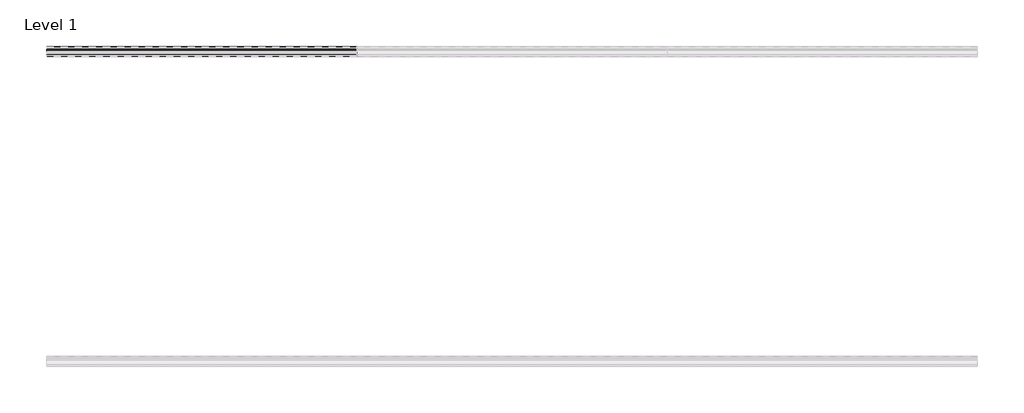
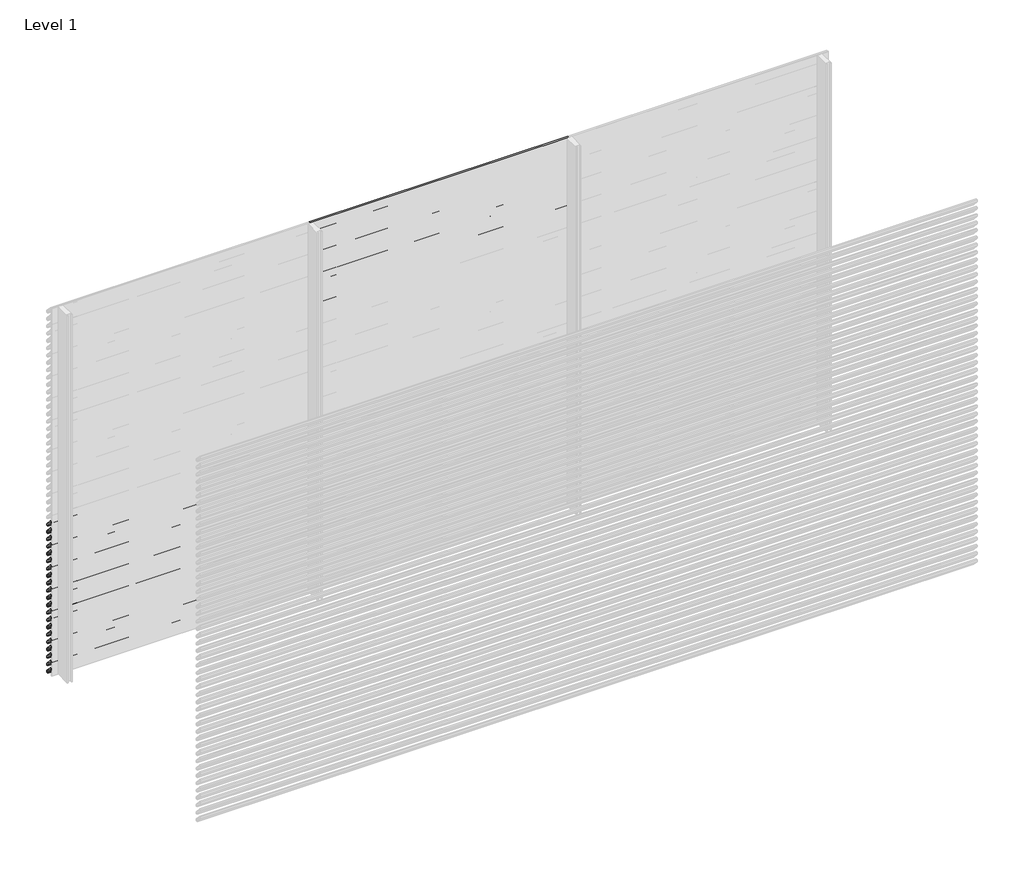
# One storey, part 39 of 153: 33 proxies.
"""IFC4 building model written with IfcOpenShell, lengths in millimetres."""

from ifc_helpers import new_model, si_unit, point, frame, frame_2d, origin, place, context, project, spatial, polyline, circle_curve, trimmed, segment, composite_curve, outline, extrude, element, save

model = new_model("IFC4")

# Units and contexts
model_context = context("Model", 3, world=origin())
ifc_project = project(units=[si_unit("LENGTHUNIT", "METRE", prefix="MILLI")], contexts=[model_context])

# Site, building, storey
site = spatial("IfcSite", under=ifc_project)
building = spatial("IfcBuilding", under=site)
storey = spatial("IfcBuildingStorey", under=building, Name="Level 1", Elevation=0.0)

# Proxies
placement = place(None, origin())
element("IfcBuildingElementProxy", 1, Name="Wall Sweeps", at=placement, inside=storey, context=model_context, shape_type="SweptSolid", body=[
    extrude(outline(composite_curve([segment(polyline([(13985.0540136, 1260.0), (13999.874191, 1258.7034025), (14049.0540136, 1205.0102749), (14049.0540136, 1193.6108187)]), True, "CONTINUOUS"), segment(trimmed(circle_curve(frame_2d((14045.7883652, 1193.897153)), 3.2781774), [point((14049.0540136, 1193.6108187))], [point((14046.4639442, 1190.6893438))], False, "CARTESIAN"), True, "CONTINUOUS"), segment(polyline([(14046.4639442, 1190.6893438), (14034.1895723, 1191.6282758), (13985.0540136, 1245.2730773), (13985.0540136, 1260.0)]), True, "CONTINUOUS")], self_intersect=False), holes=[composite_curve([segment(polyline([(13999.1621773, 1257.2599659), (13986.5540136, 1258.3630372), (13986.5540136, 1245.856213), (14034.8952036, 1193.0786805), (14046.3312542, 1192.2038762)]), True, "CONTINUOUS"), segment(trimmed(circle_curve(frame_2d((14045.7883652, 1193.897153)), 1.7781774), [point((14046.3312542, 1192.2038762))], [point((14047.5540136, 1193.6864389))], True, "CARTESIAN"), True, "CONTINUOUS"), segment(polyline([(14047.5540136, 1193.6864389), (14047.5540136, 1204.4271392), (13999.1621773, 1257.2599659)]), True, "CONTINUOUS")], self_intersect=False)]), frame((44966.6208097, 0.0, 0.0), z_axis=(1.0, 0.0, 0.0), x_axis=(0.0, 1.0, 0.0)), (0.0, 0.0, 1.0), 2000.0000001),
])
element("IfcBuildingElementProxy", 2, Name="Wall Sweeps", at=placement, inside=storey, context=model_context, shape_type="SweptSolid", body=[
    extrude(outline(composite_curve([segment(polyline([(13985.0540136, 1200.0), (13999.874191, 1198.7034025), (14049.0540136, 1145.0102749), (14049.0540136, 1133.6108187)]), True, "CONTINUOUS"), segment(trimmed(circle_curve(frame_2d((14045.7883652, 1133.897153)), 3.2781774), [point((14049.0540136, 1133.6108187))], [point((14046.4639442, 1130.6893438))], False, "CARTESIAN"), True, "CONTINUOUS"), segment(polyline([(14046.4639442, 1130.6893438), (14034.1895723, 1131.6282758), (13985.0540136, 1185.2730773), (13985.0540136, 1200.0)]), True, "CONTINUOUS")], self_intersect=False), holes=[composite_curve([segment(polyline([(13999.1621773, 1197.2599659), (13986.5540136, 1198.3630372), (13986.5540136, 1185.856213), (14034.8952036, 1133.0786805), (14046.3312542, 1132.2038762)]), True, "CONTINUOUS"), segment(trimmed(circle_curve(frame_2d((14045.7883652, 1133.897153)), 1.7781774), [point((14046.3312542, 1132.2038762))], [point((14047.5540136, 1133.6864389))], True, "CARTESIAN"), True, "CONTINUOUS"), segment(polyline([(14047.5540136, 1133.6864389), (14047.5540136, 1144.4271392), (13999.1621773, 1197.2599659)]), True, "CONTINUOUS")], self_intersect=False)]), frame((44966.6208097, 0.0, 0.0), z_axis=(1.0, 0.0, 0.0), x_axis=(0.0, 1.0, 0.0)), (0.0, 0.0, 1.0), 2000.0000001),
])
element("IfcBuildingElementProxy", 3, Name="Wall Sweeps", at=placement, inside=storey, context=model_context, shape_type="SweptSolid", body=[
    extrude(outline(composite_curve([segment(polyline([(13985.0540136, 1140.0), (13999.874191, 1138.7034025), (14049.0540136, 1085.0102749), (14049.0540136, 1073.6108187)]), True, "CONTINUOUS"), segment(trimmed(circle_curve(frame_2d((14045.7883652, 1073.897153)), 3.2781774), [point((14049.0540136, 1073.6108187))], [point((14046.4639442, 1070.6893438))], False, "CARTESIAN"), True, "CONTINUOUS"), segment(polyline([(14046.4639442, 1070.6893438), (14034.1895723, 1071.6282758), (13985.0540136, 1125.2730773), (13985.0540136, 1140.0)]), True, "CONTINUOUS")], self_intersect=False), holes=[composite_curve([segment(polyline([(13999.1621773, 1137.2599659), (13986.5540136, 1138.3630372), (13986.5540136, 1125.856213), (14034.8952036, 1073.0786805), (14046.3312542, 1072.2038762)]), True, "CONTINUOUS"), segment(trimmed(circle_curve(frame_2d((14045.7883652, 1073.897153)), 1.7781774), [point((14046.3312542, 1072.2038762))], [point((14047.5540136, 1073.6864389))], True, "CARTESIAN"), True, "CONTINUOUS"), segment(polyline([(14047.5540136, 1073.6864389), (14047.5540136, 1084.4271392), (13999.1621773, 1137.2599659)]), True, "CONTINUOUS")], self_intersect=False)]), frame((44966.6208097, 0.0, 0.0), z_axis=(1.0, 0.0, 0.0), x_axis=(0.0, 1.0, 0.0)), (0.0, 0.0, 1.0), 2000.0000001),
])
element("IfcBuildingElementProxy", 4, Name="Wall Sweeps", at=placement, inside=storey, context=model_context, shape_type="SweptSolid", body=[
    extrude(outline(composite_curve([segment(polyline([(13985.0540136, 1080.0), (13999.874191, 1078.7034025), (14049.0540136, 1025.0102749), (14049.0540136, 1013.6108187)]), True, "CONTINUOUS"), segment(trimmed(circle_curve(frame_2d((14045.7883652, 1013.897153)), 3.2781774), [point((14049.0540136, 1013.6108187))], [point((14046.4639442, 1010.6893438))], False, "CARTESIAN"), True, "CONTINUOUS"), segment(polyline([(14046.4639442, 1010.6893438), (14034.1895723, 1011.6282758), (13985.0540136, 1065.2730773), (13985.0540136, 1080.0)]), True, "CONTINUOUS")], self_intersect=False), holes=[composite_curve([segment(polyline([(13999.1621773, 1077.2599659), (13986.5540136, 1078.3630372), (13986.5540136, 1065.856213), (14034.8952036, 1013.0786805), (14046.3312542, 1012.2038762)]), True, "CONTINUOUS"), segment(trimmed(circle_curve(frame_2d((14045.7883652, 1013.897153)), 1.7781774), [point((14046.3312542, 1012.2038762))], [point((14047.5540136, 1013.6864389))], True, "CARTESIAN"), True, "CONTINUOUS"), segment(polyline([(14047.5540136, 1013.6864389), (14047.5540136, 1024.4271392), (13999.1621773, 1077.2599659)]), True, "CONTINUOUS")], self_intersect=False)]), frame((44966.6208097, 0.0, 0.0), z_axis=(1.0, 0.0, 0.0), x_axis=(0.0, 1.0, 0.0)), (0.0, 0.0, 1.0), 2000.0000001),
])
element("IfcBuildingElementProxy", 5, Name="Wall Sweeps", at=placement, inside=storey, context=model_context, shape_type="SweptSolid", body=[
    extrude(outline(composite_curve([segment(polyline([(13985.0540136, 1020.0), (13999.874191, 1018.7034025), (14049.0540136, 965.0102749), (14049.0540136, 953.6108187)]), True, "CONTINUOUS"), segment(trimmed(circle_curve(frame_2d((14045.7883652, 953.897153)), 3.2781774), [point((14049.0540136, 953.6108187))], [point((14046.4639442, 950.6893438))], False, "CARTESIAN"), True, "CONTINUOUS"), segment(polyline([(14046.4639442, 950.6893438), (14034.1895723, 951.6282758), (13985.0540136, 1005.2730773), (13985.0540136, 1020.0)]), True, "CONTINUOUS")], self_intersect=False), holes=[composite_curve([segment(polyline([(13999.1621773, 1017.2599659), (13986.5540136, 1018.3630372), (13986.5540136, 1005.856213), (14034.8952036, 953.0786805), (14046.3312542, 952.2038762)]), True, "CONTINUOUS"), segment(trimmed(circle_curve(frame_2d((14045.7883652, 953.897153)), 1.7781774), [point((14046.3312542, 952.2038762))], [point((14047.5540136, 953.6864389))], True, "CARTESIAN"), True, "CONTINUOUS"), segment(polyline([(14047.5540136, 953.6864389), (14047.5540136, 964.4271392), (13999.1621773, 1017.2599659)]), True, "CONTINUOUS")], self_intersect=False)]), frame((44966.6208097, 0.0, 0.0), z_axis=(1.0, 0.0, 0.0), x_axis=(0.0, 1.0, 0.0)), (0.0, 0.0, 1.0), 2000.0000001),
])
element("IfcBuildingElementProxy", 6, Name="Wall Sweeps", at=placement, inside=storey, context=model_context, shape_type="SweptSolid", body=[
    extrude(outline(composite_curve([segment(polyline([(13985.0540136, 960.0), (13999.874191, 958.7034025), (14049.0540136, 905.0102749), (14049.0540136, 893.6108187)]), True, "CONTINUOUS"), segment(trimmed(circle_curve(frame_2d((14045.7883652, 893.897153)), 3.2781774), [point((14049.0540136, 893.6108187))], [point((14046.4639442, 890.6893438))], False, "CARTESIAN"), True, "CONTINUOUS"), segment(polyline([(14046.4639442, 890.6893438), (14034.1895723, 891.6282758), (13985.0540136, 945.2730773), (13985.0540136, 960.0)]), True, "CONTINUOUS")], self_intersect=False), holes=[composite_curve([segment(polyline([(13999.1621773, 957.2599659), (13986.5540136, 958.3630372), (13986.5540136, 945.856213), (14034.8952036, 893.0786805), (14046.3312542, 892.2038762)]), True, "CONTINUOUS"), segment(trimmed(circle_curve(frame_2d((14045.7883652, 893.897153)), 1.7781774), [point((14046.3312542, 892.2038762))], [point((14047.5540136, 893.6864389))], True, "CARTESIAN"), True, "CONTINUOUS"), segment(polyline([(14047.5540136, 893.6864389), (14047.5540136, 904.4271392), (13999.1621773, 957.2599659)]), True, "CONTINUOUS")], self_intersect=False)]), frame((44966.6208097, 0.0, 0.0), z_axis=(1.0, 0.0, 0.0), x_axis=(0.0, 1.0, 0.0)), (0.0, 0.0, 1.0), 2000.0000001),
])
element("IfcBuildingElementProxy", 7, Name="Wall Sweeps", at=placement, inside=storey, context=model_context, shape_type="SweptSolid", body=[
    extrude(outline(composite_curve([segment(polyline([(13985.0540136, 900.0), (13999.874191, 898.7034025), (14049.0540136, 845.0102749), (14049.0540136, 833.6108187)]), True, "CONTINUOUS"), segment(trimmed(circle_curve(frame_2d((14045.7883652, 833.897153)), 3.2781774), [point((14049.0540136, 833.6108187))], [point((14046.4639442, 830.6893438))], False, "CARTESIAN"), True, "CONTINUOUS"), segment(polyline([(14046.4639442, 830.6893438), (14034.1895723, 831.6282758), (13985.0540136, 885.2730773), (13985.0540136, 900.0)]), True, "CONTINUOUS")], self_intersect=False), holes=[composite_curve([segment(polyline([(13999.1621773, 897.2599659), (13986.5540136, 898.3630372), (13986.5540136, 885.856213), (14034.8952036, 833.0786805), (14046.3312542, 832.2038762)]), True, "CONTINUOUS"), segment(trimmed(circle_curve(frame_2d((14045.7883652, 833.897153)), 1.7781774), [point((14046.3312542, 832.2038762))], [point((14047.5540136, 833.6864389))], True, "CARTESIAN"), True, "CONTINUOUS"), segment(polyline([(14047.5540136, 833.6864389), (14047.5540136, 844.4271392), (13999.1621773, 897.2599659)]), True, "CONTINUOUS")], self_intersect=False)]), frame((44966.6208097, 0.0, 0.0), z_axis=(1.0, 0.0, 0.0), x_axis=(0.0, 1.0, 0.0)), (0.0, 0.0, 1.0), 2000.0000001),
])
element("IfcBuildingElementProxy", 8, Name="Wall Sweeps", at=placement, inside=storey, context=model_context, shape_type="SweptSolid", body=[
    extrude(outline(composite_curve([segment(polyline([(13985.0540136, 840.0), (13999.874191, 838.7034025), (14049.0540136, 785.0102749), (14049.0540136, 773.6108187)]), True, "CONTINUOUS"), segment(trimmed(circle_curve(frame_2d((14045.7883652, 773.897153)), 3.2781774), [point((14049.0540136, 773.6108187))], [point((14046.4639442, 770.6893438))], False, "CARTESIAN"), True, "CONTINUOUS"), segment(polyline([(14046.4639442, 770.6893438), (14034.1895723, 771.6282758), (13985.0540136, 825.2730773), (13985.0540136, 840.0)]), True, "CONTINUOUS")], self_intersect=False), holes=[composite_curve([segment(polyline([(13999.1621773, 837.2599659), (13986.5540136, 838.3630372), (13986.5540136, 825.856213), (14034.8952036, 773.0786805), (14046.3312542, 772.2038762)]), True, "CONTINUOUS"), segment(trimmed(circle_curve(frame_2d((14045.7883652, 773.897153)), 1.7781774), [point((14046.3312542, 772.2038762))], [point((14047.5540136, 773.6864389))], True, "CARTESIAN"), True, "CONTINUOUS"), segment(polyline([(14047.5540136, 773.6864389), (14047.5540136, 784.4271392), (13999.1621773, 837.2599659)]), True, "CONTINUOUS")], self_intersect=False)]), frame((44966.6208097, 0.0, 0.0), z_axis=(1.0, 0.0, 0.0), x_axis=(0.0, 1.0, 0.0)), (0.0, 0.0, 1.0), 2000.0000001),
])
element("IfcBuildingElementProxy", 9, Name="Wall Sweeps", at=placement, inside=storey, context=model_context, shape_type="SweptSolid", body=[
    extrude(outline(composite_curve([segment(polyline([(13985.0540136, 780.0), (13999.874191, 778.7034025), (14049.0540136, 725.0102749), (14049.0540136, 713.6108187)]), True, "CONTINUOUS"), segment(trimmed(circle_curve(frame_2d((14045.7883652, 713.897153)), 3.2781774), [point((14049.0540136, 713.6108187))], [point((14046.4639442, 710.6893438))], False, "CARTESIAN"), True, "CONTINUOUS"), segment(polyline([(14046.4639442, 710.6893438), (14034.1895723, 711.6282758), (13985.0540136, 765.2730773), (13985.0540136, 780.0)]), True, "CONTINUOUS")], self_intersect=False), holes=[composite_curve([segment(polyline([(13999.1621773, 777.2599659), (13986.5540136, 778.3630372), (13986.5540136, 765.856213), (14034.8952036, 713.0786805), (14046.3312542, 712.2038762)]), True, "CONTINUOUS"), segment(trimmed(circle_curve(frame_2d((14045.7883652, 713.897153)), 1.7781774), [point((14046.3312542, 712.2038762))], [point((14047.5540136, 713.6864389))], True, "CARTESIAN"), True, "CONTINUOUS"), segment(polyline([(14047.5540136, 713.6864389), (14047.5540136, 724.4271392), (13999.1621773, 777.2599659)]), True, "CONTINUOUS")], self_intersect=False)]), frame((44966.6208097, 0.0, 0.0), z_axis=(1.0, 0.0, 0.0), x_axis=(0.0, 1.0, 0.0)), (0.0, 0.0, 1.0), 2000.0000001),
])
element("IfcBuildingElementProxy", 10, Name="Wall Sweeps", at=placement, inside=storey, context=model_context, shape_type="SweptSolid", body=[
    extrude(outline(composite_curve([segment(polyline([(13985.0540136, 720.0), (13999.874191, 718.7034025), (14049.0540136, 665.0102749), (14049.0540136, 653.6108187)]), True, "CONTINUOUS"), segment(trimmed(circle_curve(frame_2d((14045.7883652, 653.897153)), 3.2781774), [point((14049.0540136, 653.6108187))], [point((14046.4639442, 650.6893438))], False, "CARTESIAN"), True, "CONTINUOUS"), segment(polyline([(14046.4639442, 650.6893438), (14034.1895723, 651.6282758), (13985.0540136, 705.2730773), (13985.0540136, 720.0)]), True, "CONTINUOUS")], self_intersect=False), holes=[composite_curve([segment(polyline([(13999.1621773, 717.2599659), (13986.5540136, 718.3630372), (13986.5540136, 705.856213), (14034.8952036, 653.0786805), (14046.3312542, 652.2038762)]), True, "CONTINUOUS"), segment(trimmed(circle_curve(frame_2d((14045.7883652, 653.897153)), 1.7781774), [point((14046.3312542, 652.2038762))], [point((14047.5540136, 653.6864389))], True, "CARTESIAN"), True, "CONTINUOUS"), segment(polyline([(14047.5540136, 653.6864389), (14047.5540136, 664.4271392), (13999.1621773, 717.2599659)]), True, "CONTINUOUS")], self_intersect=False)]), frame((44966.6208097, 0.0, 0.0), z_axis=(1.0, 0.0, 0.0), x_axis=(0.0, 1.0, 0.0)), (0.0, 0.0, 1.0), 2000.0000001),
])
element("IfcBuildingElementProxy", 11, Name="Wall Sweeps", at=placement, inside=storey, context=model_context, shape_type="SweptSolid", body=[
    extrude(outline(composite_curve([segment(polyline([(13985.0540136, 660.0), (13999.874191, 658.7034025), (14049.0540136, 605.0102749), (14049.0540136, 593.6108187)]), True, "CONTINUOUS"), segment(trimmed(circle_curve(frame_2d((14045.7883652, 593.897153)), 3.2781774), [point((14049.0540136, 593.6108187))], [point((14046.4639442, 590.6893438))], False, "CARTESIAN"), True, "CONTINUOUS"), segment(polyline([(14046.4639442, 590.6893438), (14034.1895723, 591.6282758), (13985.0540136, 645.2730773), (13985.0540136, 660.0)]), True, "CONTINUOUS")], self_intersect=False), holes=[composite_curve([segment(polyline([(13999.1621773, 657.2599659), (13986.5540136, 658.3630372), (13986.5540136, 645.856213), (14034.8952036, 593.0786805), (14046.3312542, 592.2038762)]), True, "CONTINUOUS"), segment(trimmed(circle_curve(frame_2d((14045.7883652, 593.897153)), 1.7781774), [point((14046.3312542, 592.2038762))], [point((14047.5540136, 593.6864389))], True, "CARTESIAN"), True, "CONTINUOUS"), segment(polyline([(14047.5540136, 593.6864389), (14047.5540136, 604.4271392), (13999.1621773, 657.2599659)]), True, "CONTINUOUS")], self_intersect=False)]), frame((44966.6208097, 0.0, 0.0), z_axis=(1.0, 0.0, 0.0), x_axis=(0.0, 1.0, 0.0)), (0.0, 0.0, 1.0), 2000.0000001),
])
element("IfcBuildingElementProxy", 12, Name="Wall Sweeps", at=placement, inside=storey, context=model_context, shape_type="SweptSolid", body=[
    extrude(outline(composite_curve([segment(polyline([(13985.0540136, 600.0), (13999.874191, 598.7034025), (14049.0540136, 545.0102749), (14049.0540136, 533.6108187)]), True, "CONTINUOUS"), segment(trimmed(circle_curve(frame_2d((14045.7883652, 533.897153)), 3.2781774), [point((14049.0540136, 533.6108187))], [point((14046.4639442, 530.6893438))], False, "CARTESIAN"), True, "CONTINUOUS"), segment(polyline([(14046.4639442, 530.6893438), (14034.1895723, 531.6282758), (13985.0540136, 585.2730773), (13985.0540136, 600.0)]), True, "CONTINUOUS")], self_intersect=False), holes=[composite_curve([segment(polyline([(13999.1621773, 597.2599659), (13986.5540136, 598.3630372), (13986.5540136, 585.856213), (14034.8952036, 533.0786805), (14046.3312542, 532.2038762)]), True, "CONTINUOUS"), segment(trimmed(circle_curve(frame_2d((14045.7883652, 533.897153)), 1.7781774), [point((14046.3312542, 532.2038762))], [point((14047.5540136, 533.6864389))], True, "CARTESIAN"), True, "CONTINUOUS"), segment(polyline([(14047.5540136, 533.6864389), (14047.5540136, 544.4271392), (13999.1621773, 597.2599659)]), True, "CONTINUOUS")], self_intersect=False)]), frame((44966.6208097, 0.0, 0.0), z_axis=(1.0, 0.0, 0.0), x_axis=(0.0, 1.0, 0.0)), (0.0, 0.0, 1.0), 2000.0000001),
])
element("IfcBuildingElementProxy", 13, Name="Wall Sweeps", at=placement, inside=storey, context=model_context, shape_type="SweptSolid", body=[
    extrude(outline(composite_curve([segment(polyline([(13985.0540136, 540.0), (13999.874191, 538.7034025), (14049.0540136, 485.0102749), (14049.0540136, 473.6108187)]), True, "CONTINUOUS"), segment(trimmed(circle_curve(frame_2d((14045.7883652, 473.897153)), 3.2781774), [point((14049.0540136, 473.6108187))], [point((14046.4639442, 470.6893438))], False, "CARTESIAN"), True, "CONTINUOUS"), segment(polyline([(14046.4639442, 470.6893438), (14034.1895723, 471.6282758), (13985.0540136, 525.2730773), (13985.0540136, 540.0)]), True, "CONTINUOUS")], self_intersect=False), holes=[composite_curve([segment(polyline([(13999.1621773, 537.2599659), (13986.5540136, 538.3630372), (13986.5540136, 525.856213), (14034.8952036, 473.0786805), (14046.3312542, 472.2038762)]), True, "CONTINUOUS"), segment(trimmed(circle_curve(frame_2d((14045.7883652, 473.897153)), 1.7781774), [point((14046.3312542, 472.2038762))], [point((14047.5540136, 473.6864389))], True, "CARTESIAN"), True, "CONTINUOUS"), segment(polyline([(14047.5540136, 473.6864389), (14047.5540136, 484.4271392), (13999.1621773, 537.2599659)]), True, "CONTINUOUS")], self_intersect=False)]), frame((44966.6208097, 0.0, 0.0), z_axis=(1.0, 0.0, 0.0), x_axis=(0.0, 1.0, 0.0)), (0.0, 0.0, 1.0), 2000.0000001),
])
element("IfcBuildingElementProxy", 14, Name="Wall Sweeps", at=placement, inside=storey, context=model_context, shape_type="SweptSolid", body=[
    extrude(outline(composite_curve([segment(polyline([(13985.0540136, 480.0), (13999.874191, 478.7034025), (14049.0540136, 425.0102749), (14049.0540136, 413.6108187)]), True, "CONTINUOUS"), segment(trimmed(circle_curve(frame_2d((14045.7883652, 413.897153)), 3.2781774), [point((14049.0540136, 413.6108187))], [point((14046.4639442, 410.6893438))], False, "CARTESIAN"), True, "CONTINUOUS"), segment(polyline([(14046.4639442, 410.6893438), (14034.1895723, 411.6282758), (13985.0540136, 465.2730773), (13985.0540136, 480.0)]), True, "CONTINUOUS")], self_intersect=False), holes=[composite_curve([segment(polyline([(13999.1621773, 477.2599659), (13986.5540136, 478.3630372), (13986.5540136, 465.856213), (14034.8952036, 413.0786805), (14046.3312542, 412.2038762)]), True, "CONTINUOUS"), segment(trimmed(circle_curve(frame_2d((14045.7883652, 413.897153)), 1.7781774), [point((14046.3312542, 412.2038762))], [point((14047.5540136, 413.6864389))], True, "CARTESIAN"), True, "CONTINUOUS"), segment(polyline([(14047.5540136, 413.6864389), (14047.5540136, 424.4271392), (13999.1621773, 477.2599659)]), True, "CONTINUOUS")], self_intersect=False)]), frame((44966.6208097, 0.0, 0.0), z_axis=(1.0, 0.0, 0.0), x_axis=(0.0, 1.0, 0.0)), (0.0, 0.0, 1.0), 2000.0000001),
])
element("IfcBuildingElementProxy", 15, Name="Wall Sweeps", at=placement, inside=storey, context=model_context, shape_type="SweptSolid", body=[
    extrude(outline(composite_curve([segment(polyline([(13985.0540136, 420.0), (13999.874191, 418.7034025), (14049.0540136, 365.0102749), (14049.0540136, 353.6108187)]), True, "CONTINUOUS"), segment(trimmed(circle_curve(frame_2d((14045.7883652, 353.897153)), 3.2781774), [point((14049.0540136, 353.6108187))], [point((14046.4639442, 350.6893438))], False, "CARTESIAN"), True, "CONTINUOUS"), segment(polyline([(14046.4639442, 350.6893438), (14034.1895723, 351.6282758), (13985.0540136, 405.2730773), (13985.0540136, 420.0)]), True, "CONTINUOUS")], self_intersect=False), holes=[composite_curve([segment(polyline([(13999.1621773, 417.2599659), (13986.5540136, 418.3630372), (13986.5540136, 405.856213), (14034.8952036, 353.0786805), (14046.3312542, 352.2038762)]), True, "CONTINUOUS"), segment(trimmed(circle_curve(frame_2d((14045.7883652, 353.897153)), 1.7781774), [point((14046.3312542, 352.2038762))], [point((14047.5540136, 353.6864389))], True, "CARTESIAN"), True, "CONTINUOUS"), segment(polyline([(14047.5540136, 353.6864389), (14047.5540136, 364.4271392), (13999.1621773, 417.2599659)]), True, "CONTINUOUS")], self_intersect=False)]), frame((44966.6208097, 0.0, 0.0), z_axis=(1.0, 0.0, 0.0), x_axis=(0.0, 1.0, 0.0)), (0.0, 0.0, 1.0), 2000.0000001),
])
element("IfcBuildingElementProxy", 16, Name="Wall Sweeps", at=placement, inside=storey, context=model_context, shape_type="SweptSolid", body=[
    extrude(outline(composite_curve([segment(polyline([(13985.0540136, 360.0), (13999.874191, 358.7034025), (14049.0540136, 305.0102749), (14049.0540136, 293.6108187)]), True, "CONTINUOUS"), segment(trimmed(circle_curve(frame_2d((14045.7883652, 293.897153)), 3.2781774), [point((14049.0540136, 293.6108187))], [point((14046.4639442, 290.6893438))], False, "CARTESIAN"), True, "CONTINUOUS"), segment(polyline([(14046.4639442, 290.6893438), (14034.1895723, 291.6282758), (13985.0540136, 345.2730773), (13985.0540136, 360.0)]), True, "CONTINUOUS")], self_intersect=False), holes=[composite_curve([segment(polyline([(13999.1621773, 357.2599659), (13986.5540136, 358.3630372), (13986.5540136, 345.856213), (14034.8952036, 293.0786805), (14046.3312542, 292.2038762)]), True, "CONTINUOUS"), segment(trimmed(circle_curve(frame_2d((14045.7883652, 293.897153)), 1.7781774), [point((14046.3312542, 292.2038762))], [point((14047.5540136, 293.6864389))], True, "CARTESIAN"), True, "CONTINUOUS"), segment(polyline([(14047.5540136, 293.6864389), (14047.5540136, 304.4271392), (13999.1621773, 357.2599659)]), True, "CONTINUOUS")], self_intersect=False)]), frame((44966.6208097, 0.0, 0.0), z_axis=(1.0, 0.0, 0.0), x_axis=(0.0, 1.0, 0.0)), (0.0, 0.0, 1.0), 2000.0000001),
])
element("IfcBuildingElementProxy", 17, Name="Wall Sweeps", at=placement, inside=storey, context=model_context, shape_type="SweptSolid", body=[
    extrude(outline(composite_curve([segment(polyline([(13985.0540136, 300.0), (13999.874191, 298.7034025), (14049.0540136, 245.0102749), (14049.0540136, 233.6108187)]), True, "CONTINUOUS"), segment(trimmed(circle_curve(frame_2d((14045.7883652, 233.897153)), 3.2781774), [point((14049.0540136, 233.6108187))], [point((14046.4639442, 230.6893438))], False, "CARTESIAN"), True, "CONTINUOUS"), segment(polyline([(14046.4639442, 230.6893438), (14034.1895723, 231.6282758), (13985.0540136, 285.2730773), (13985.0540136, 300.0)]), True, "CONTINUOUS")], self_intersect=False), holes=[composite_curve([segment(polyline([(13999.1621773, 297.2599659), (13986.5540136, 298.3630372), (13986.5540136, 285.856213), (14034.8952036, 233.0786805), (14046.3312542, 232.2038762)]), True, "CONTINUOUS"), segment(trimmed(circle_curve(frame_2d((14045.7883652, 233.897153)), 1.7781774), [point((14046.3312542, 232.2038762))], [point((14047.5540136, 233.6864389))], True, "CARTESIAN"), True, "CONTINUOUS"), segment(polyline([(14047.5540136, 233.6864389), (14047.5540136, 244.4271392), (13999.1621773, 297.2599659)]), True, "CONTINUOUS")], self_intersect=False)]), frame((44966.6208097, 0.0, 0.0), z_axis=(1.0, 0.0, 0.0), x_axis=(0.0, 1.0, 0.0)), (0.0, 0.0, 1.0), 2000.0000001),
])
element("IfcBuildingElementProxy", 18, Name="Wall Sweeps", at=placement, inside=storey, context=model_context, shape_type="SweptSolid", body=[
    extrude(outline(composite_curve([segment(polyline([(13985.0540136, 240.0), (13999.874191, 238.7034025), (14049.0540136, 185.0102749), (14049.0540136, 173.6108187)]), True, "CONTINUOUS"), segment(trimmed(circle_curve(frame_2d((14045.7883652, 173.897153)), 3.2781774), [point((14049.0540136, 173.6108187))], [point((14046.4639442, 170.6893438))], False, "CARTESIAN"), True, "CONTINUOUS"), segment(polyline([(14046.4639442, 170.6893438), (14034.1895723, 171.6282758), (13985.0540136, 225.2730773), (13985.0540136, 240.0)]), True, "CONTINUOUS")], self_intersect=False), holes=[composite_curve([segment(polyline([(13999.1621773, 237.2599659), (13986.5540136, 238.3630372), (13986.5540136, 225.856213), (14034.8952036, 173.0786805), (14046.3312542, 172.2038762)]), True, "CONTINUOUS"), segment(trimmed(circle_curve(frame_2d((14045.7883652, 173.897153)), 1.7781774), [point((14046.3312542, 172.2038762))], [point((14047.5540136, 173.6864389))], True, "CARTESIAN"), True, "CONTINUOUS"), segment(polyline([(14047.5540136, 173.6864389), (14047.5540136, 184.4271392), (13999.1621773, 237.2599659)]), True, "CONTINUOUS")], self_intersect=False)]), frame((44966.6208097, 0.0, 0.0), z_axis=(1.0, 0.0, 0.0), x_axis=(0.0, 1.0, 0.0)), (0.0, 0.0, 1.0), 2000.0000001),
])
element("IfcBuildingElementProxy", 19, Name="Wall Sweeps", at=placement, inside=storey, context=model_context, shape_type="SweptSolid", body=[
    extrude(outline(composite_curve([segment(polyline([(13985.0540136, 180.0), (13999.874191, 178.7034025), (14049.0540136, 125.0102749), (14049.0540136, 113.6108187)]), True, "CONTINUOUS"), segment(trimmed(circle_curve(frame_2d((14045.7883652, 113.897153)), 3.2781774), [point((14049.0540136, 113.6108187))], [point((14046.4639442, 110.6893438))], False, "CARTESIAN"), True, "CONTINUOUS"), segment(polyline([(14046.4639442, 110.6893438), (14034.1895723, 111.6282758), (13985.0540136, 165.2730773), (13985.0540136, 180.0)]), True, "CONTINUOUS")], self_intersect=False), holes=[composite_curve([segment(polyline([(13999.1621773, 177.2599659), (13986.5540136, 178.3630372), (13986.5540136, 165.856213), (14034.8952036, 113.0786805), (14046.3312542, 112.2038762)]), True, "CONTINUOUS"), segment(trimmed(circle_curve(frame_2d((14045.7883652, 113.897153)), 1.7781774), [point((14046.3312542, 112.2038762))], [point((14047.5540136, 113.6864389))], True, "CARTESIAN"), True, "CONTINUOUS"), segment(polyline([(14047.5540136, 113.6864389), (14047.5540136, 124.4271392), (13999.1621773, 177.2599659)]), True, "CONTINUOUS")], self_intersect=False)]), frame((44966.6208097, 0.0, 0.0), z_axis=(1.0, 0.0, 0.0), x_axis=(0.0, 1.0, 0.0)), (0.0, 0.0, 1.0), 2000.0000001),
])
element("IfcBuildingElementProxy", 20, Name="Wall Sweeps", at=placement, inside=storey, context=model_context, shape_type="SweptSolid", body=[
    extrude(outline(composite_curve([segment(polyline([(13985.0540136, 120.0), (13999.874191, 118.7034025), (14049.0540136, 65.0102749), (14049.0540136, 53.6108187)]), True, "CONTINUOUS"), segment(trimmed(circle_curve(frame_2d((14045.7883652, 53.897153)), 3.2781774), [point((14049.0540136, 53.6108187))], [point((14046.4639442, 50.6893438))], False, "CARTESIAN"), True, "CONTINUOUS"), segment(polyline([(14046.4639442, 50.6893438), (14034.1895723, 51.6282758), (13985.0540136, 105.2730773), (13985.0540136, 120.0)]), True, "CONTINUOUS")], self_intersect=False), holes=[composite_curve([segment(polyline([(13999.1621773, 117.2599659), (13986.5540136, 118.3630372), (13986.5540136, 105.856213), (14034.8952036, 53.0786805), (14046.3312542, 52.2038762)]), True, "CONTINUOUS"), segment(trimmed(circle_curve(frame_2d((14045.7883652, 53.897153)), 1.7781774), [point((14046.3312542, 52.2038762))], [point((14047.5540136, 53.6864389))], True, "CARTESIAN"), True, "CONTINUOUS"), segment(polyline([(14047.5540136, 53.6864389), (14047.5540136, 64.4271392), (13999.1621773, 117.2599659)]), True, "CONTINUOUS")], self_intersect=False)]), frame((44966.6208097, 0.0, 0.0), z_axis=(1.0, 0.0, 0.0), x_axis=(0.0, 1.0, 0.0)), (0.0, 0.0, 1.0), 2000.0000001),
])
element("IfcBuildingElementProxy", 21, Name="Wall Sweeps", at=placement, inside=storey, context=model_context, shape_type="SweptSolid", body=[
    extrude(outline(composite_curve([segment(polyline([(13985.0540136, 60.0), (13999.874191, 58.7034025), (14049.0540136, 5.0102749), (14049.0540136, -6.3891813)]), True, "CONTINUOUS"), segment(trimmed(circle_curve(frame_2d((14045.7883652, -6.102847)), 3.2781774), [point((14049.0540136, -6.3891813))], [point((14046.4639442, -9.3106562))], False, "CARTESIAN"), True, "CONTINUOUS"), segment(polyline([(14046.4639442, -9.3106562), (14034.1895723, -8.3717242), (13985.0540136, 45.2730773), (13985.0540136, 60.0)]), True, "CONTINUOUS")], self_intersect=False), holes=[composite_curve([segment(polyline([(13999.1621773, 57.2599659), (13986.5540136, 58.3630372), (13986.5540136, 45.856213), (14034.8952036, -6.9213195), (14046.3312542, -7.7961238)]), True, "CONTINUOUS"), segment(trimmed(circle_curve(frame_2d((14045.7883652, -6.102847)), 1.7781774), [point((14046.3312542, -7.7961238))], [point((14047.5540136, -6.3135611))], True, "CARTESIAN"), True, "CONTINUOUS"), segment(polyline([(14047.5540136, -6.3135611), (14047.5540136, 4.4271392), (13999.1621773, 57.2599659)]), True, "CONTINUOUS")], self_intersect=False)]), frame((44966.6208097, 0.0, 0.0), z_axis=(1.0, 0.0, 0.0), x_axis=(0.0, 1.0, 0.0)), (0.0, 0.0, 1.0), 2000.0000001),
])
element("IfcBuildingElementProxy", 22, Name="Wall Sweeps", at=placement, inside=storey, context=model_context, shape_type="SweptSolid", body=[
    extrude(outline(composite_curve([segment(polyline([(13985.0540136, 3000.0), (13999.874191, 2998.7034025), (14049.0540136, 2945.0102749), (14049.0540136, 2933.6108187)]), True, "CONTINUOUS"), segment(trimmed(circle_curve(frame_2d((14045.7883652, 2933.897153)), 3.2781774), [point((14049.0540136, 2933.6108187))], [point((14046.4639442, 2930.6893438))], False, "CARTESIAN"), True, "CONTINUOUS"), segment(polyline([(14046.4639442, 2930.6893438), (14034.1895723, 2931.6282758), (13985.0540136, 2985.2730773), (13985.0540136, 3000.0)]), True, "CONTINUOUS")], self_intersect=False), holes=[composite_curve([segment(polyline([(13999.1621773, 2997.2599659), (13986.5540136, 2998.3630372), (13986.5540136, 2985.856213), (14034.8952036, 2933.0786805), (14046.3312542, 2932.2038762)]), True, "CONTINUOUS"), segment(trimmed(circle_curve(frame_2d((14045.7883652, 2933.897153)), 1.7781774), [point((14046.3312542, 2932.2038762))], [point((14047.5540136, 2933.6864389))], True, "CARTESIAN"), True, "CONTINUOUS"), segment(polyline([(14047.5540136, 2933.6864389), (14047.5540136, 2944.4271392), (13999.1621773, 2997.2599659)]), True, "CONTINUOUS")], self_intersect=False)]), frame((46966.6208098, 0.0, 0.0), z_axis=(1.0, 0.0, 0.0), x_axis=(0.0, 1.0, 0.0)), (0.0, 0.0, 1.0), 1999.9999998),
])
element("IfcBuildingElementProxy", 23, Name="Wall Sweeps", at=placement, inside=storey, context=model_context, shape_type="SweptSolid", body=[
    extrude(outline(composite_curve([segment(polyline([(13985.0540136, 2940.0), (13999.874191, 2938.7034025), (14049.0540136, 2885.0102749), (14049.0540136, 2873.6108187)]), True, "CONTINUOUS"), segment(trimmed(circle_curve(frame_2d((14045.7883652, 2873.897153)), 3.2781774), [point((14049.0540136, 2873.6108187))], [point((14046.4639442, 2870.6893438))], False, "CARTESIAN"), True, "CONTINUOUS"), segment(polyline([(14046.4639442, 2870.6893438), (14034.1895723, 2871.6282758), (13985.0540136, 2925.2730773), (13985.0540136, 2940.0)]), True, "CONTINUOUS")], self_intersect=False), holes=[composite_curve([segment(polyline([(13999.1621773, 2937.2599659), (13986.5540136, 2938.3630372), (13986.5540136, 2925.856213), (14034.8952036, 2873.0786805), (14046.3312542, 2872.2038762)]), True, "CONTINUOUS"), segment(trimmed(circle_curve(frame_2d((14045.7883652, 2873.897153)), 1.7781774), [point((14046.3312542, 2872.2038762))], [point((14047.5540136, 2873.6864389))], True, "CARTESIAN"), True, "CONTINUOUS"), segment(polyline([(14047.5540136, 2873.6864389), (14047.5540136, 2884.4271392), (13999.1621773, 2937.2599659)]), True, "CONTINUOUS")], self_intersect=False)]), frame((46966.6208098, 0.0, 0.0), z_axis=(1.0, 0.0, 0.0), x_axis=(0.0, 1.0, 0.0)), (0.0, 0.0, 1.0), 1999.9999998),
])
element("IfcBuildingElementProxy", 24, Name="Wall Sweeps", at=placement, inside=storey, context=model_context, shape_type="SweptSolid", body=[
    extrude(outline(composite_curve([segment(polyline([(13985.0540136, 2880.0), (13999.874191, 2878.7034025), (14049.0540136, 2825.0102749), (14049.0540136, 2813.6108187)]), True, "CONTINUOUS"), segment(trimmed(circle_curve(frame_2d((14045.7883652, 2813.897153)), 3.2781774), [point((14049.0540136, 2813.6108187))], [point((14046.4639442, 2810.6893438))], False, "CARTESIAN"), True, "CONTINUOUS"), segment(polyline([(14046.4639442, 2810.6893438), (14034.1895723, 2811.6282758), (13985.0540136, 2865.2730773), (13985.0540136, 2880.0)]), True, "CONTINUOUS")], self_intersect=False), holes=[composite_curve([segment(polyline([(13999.1621773, 2877.2599659), (13986.5540136, 2878.3630372), (13986.5540136, 2865.856213), (14034.8952036, 2813.0786805), (14046.3312542, 2812.2038762)]), True, "CONTINUOUS"), segment(trimmed(circle_curve(frame_2d((14045.7883652, 2813.897153)), 1.7781774), [point((14046.3312542, 2812.2038762))], [point((14047.5540136, 2813.6864389))], True, "CARTESIAN"), True, "CONTINUOUS"), segment(polyline([(14047.5540136, 2813.6864389), (14047.5540136, 2824.4271392), (13999.1621773, 2877.2599659)]), True, "CONTINUOUS")], self_intersect=False)]), frame((46966.6208098, 0.0, 0.0), z_axis=(1.0, 0.0, 0.0), x_axis=(0.0, 1.0, 0.0)), (0.0, 0.0, 1.0), 1999.9999998),
])
element("IfcBuildingElementProxy", 25, Name="Wall Sweeps", at=placement, inside=storey, context=model_context, shape_type="SweptSolid", body=[
    extrude(outline(composite_curve([segment(polyline([(13985.0540136, 2820.0), (13999.874191, 2818.7034025), (14049.0540136, 2765.0102749), (14049.0540136, 2753.6108187)]), True, "CONTINUOUS"), segment(trimmed(circle_curve(frame_2d((14045.7883652, 2753.897153)), 3.2781774), [point((14049.0540136, 2753.6108187))], [point((14046.4639442, 2750.6893438))], False, "CARTESIAN"), True, "CONTINUOUS"), segment(polyline([(14046.4639442, 2750.6893438), (14034.1895723, 2751.6282758), (13985.0540136, 2805.2730773), (13985.0540136, 2820.0)]), True, "CONTINUOUS")], self_intersect=False), holes=[composite_curve([segment(polyline([(13999.1621773, 2817.2599659), (13986.5540136, 2818.3630372), (13986.5540136, 2805.856213), (14034.8952036, 2753.0786805), (14046.3312542, 2752.2038762)]), True, "CONTINUOUS"), segment(trimmed(circle_curve(frame_2d((14045.7883652, 2753.897153)), 1.7781774), [point((14046.3312542, 2752.2038762))], [point((14047.5540136, 2753.6864389))], True, "CARTESIAN"), True, "CONTINUOUS"), segment(polyline([(14047.5540136, 2753.6864389), (14047.5540136, 2764.4271392), (13999.1621773, 2817.2599659)]), True, "CONTINUOUS")], self_intersect=False)]), frame((46966.6208098, 0.0, 0.0), z_axis=(1.0, 0.0, 0.0), x_axis=(0.0, 1.0, 0.0)), (0.0, 0.0, 1.0), 1999.9999998),
])
element("IfcBuildingElementProxy", 26, Name="Wall Sweeps", at=placement, inside=storey, context=model_context, shape_type="SweptSolid", body=[
    extrude(outline(composite_curve([segment(polyline([(13985.0540136, 2760.0), (13999.874191, 2758.7034025), (14049.0540136, 2705.0102749), (14049.0540136, 2693.6108187)]), True, "CONTINUOUS"), segment(trimmed(circle_curve(frame_2d((14045.7883652, 2693.897153)), 3.2781774), [point((14049.0540136, 2693.6108187))], [point((14046.4639442, 2690.6893438))], False, "CARTESIAN"), True, "CONTINUOUS"), segment(polyline([(14046.4639442, 2690.6893438), (14034.1895723, 2691.6282758), (13985.0540136, 2745.2730773), (13985.0540136, 2760.0)]), True, "CONTINUOUS")], self_intersect=False), holes=[composite_curve([segment(polyline([(13999.1621773, 2757.2599659), (13986.5540136, 2758.3630372), (13986.5540136, 2745.856213), (14034.8952036, 2693.0786805), (14046.3312542, 2692.2038762)]), True, "CONTINUOUS"), segment(trimmed(circle_curve(frame_2d((14045.7883652, 2693.897153)), 1.7781774), [point((14046.3312542, 2692.2038762))], [point((14047.5540136, 2693.6864389))], True, "CARTESIAN"), True, "CONTINUOUS"), segment(polyline([(14047.5540136, 2693.6864389), (14047.5540136, 2704.4271392), (13999.1621773, 2757.2599659)]), True, "CONTINUOUS")], self_intersect=False)]), frame((46966.6208098, 0.0, 0.0), z_axis=(1.0, 0.0, 0.0), x_axis=(0.0, 1.0, 0.0)), (0.0, 0.0, 1.0), 1999.9999998),
])
element("IfcBuildingElementProxy", 27, Name="Wall Sweeps", at=placement, inside=storey, context=model_context, shape_type="SweptSolid", body=[
    extrude(outline(composite_curve([segment(polyline([(13985.0540136, 2700.0), (13999.874191, 2698.7034025), (14049.0540136, 2645.0102749), (14049.0540136, 2633.6108187)]), True, "CONTINUOUS"), segment(trimmed(circle_curve(frame_2d((14045.7883652, 2633.897153)), 3.2781774), [point((14049.0540136, 2633.6108187))], [point((14046.4639442, 2630.6893438))], False, "CARTESIAN"), True, "CONTINUOUS"), segment(polyline([(14046.4639442, 2630.6893438), (14034.1895723, 2631.6282758), (13985.0540136, 2685.2730773), (13985.0540136, 2700.0)]), True, "CONTINUOUS")], self_intersect=False), holes=[composite_curve([segment(polyline([(13999.1621773, 2697.2599659), (13986.5540136, 2698.3630372), (13986.5540136, 2685.856213), (14034.8952036, 2633.0786805), (14046.3312542, 2632.2038762)]), True, "CONTINUOUS"), segment(trimmed(circle_curve(frame_2d((14045.7883652, 2633.897153)), 1.7781774), [point((14046.3312542, 2632.2038762))], [point((14047.5540136, 2633.6864389))], True, "CARTESIAN"), True, "CONTINUOUS"), segment(polyline([(14047.5540136, 2633.6864389), (14047.5540136, 2644.4271392), (13999.1621773, 2697.2599659)]), True, "CONTINUOUS")], self_intersect=False)]), frame((46966.6208098, 0.0, 0.0), z_axis=(1.0, 0.0, 0.0), x_axis=(0.0, 1.0, 0.0)), (0.0, 0.0, 1.0), 1999.9999998),
])
element("IfcBuildingElementProxy", 28, Name="Wall Sweeps", at=placement, inside=storey, context=model_context, shape_type="SweptSolid", body=[
    extrude(outline(composite_curve([segment(polyline([(13985.0540136, 2640.0), (13999.874191, 2638.7034025), (14049.0540136, 2585.0102749), (14049.0540136, 2573.6108187)]), True, "CONTINUOUS"), segment(trimmed(circle_curve(frame_2d((14045.7883652, 2573.897153)), 3.2781774), [point((14049.0540136, 2573.6108187))], [point((14046.4639442, 2570.6893438))], False, "CARTESIAN"), True, "CONTINUOUS"), segment(polyline([(14046.4639442, 2570.6893438), (14034.1895723, 2571.6282758), (13985.0540136, 2625.2730773), (13985.0540136, 2640.0)]), True, "CONTINUOUS")], self_intersect=False), holes=[composite_curve([segment(polyline([(13999.1621773, 2637.2599659), (13986.5540136, 2638.3630372), (13986.5540136, 2625.856213), (14034.8952036, 2573.0786805), (14046.3312542, 2572.2038762)]), True, "CONTINUOUS"), segment(trimmed(circle_curve(frame_2d((14045.7883652, 2573.897153)), 1.7781774), [point((14046.3312542, 2572.2038762))], [point((14047.5540136, 2573.6864389))], True, "CARTESIAN"), True, "CONTINUOUS"), segment(polyline([(14047.5540136, 2573.6864389), (14047.5540136, 2584.4271392), (13999.1621773, 2637.2599659)]), True, "CONTINUOUS")], self_intersect=False)]), frame((46966.6208098, 0.0, 0.0), z_axis=(1.0, 0.0, 0.0), x_axis=(0.0, 1.0, 0.0)), (0.0, 0.0, 1.0), 1999.9999998),
])
element("IfcBuildingElementProxy", 29, Name="Wall Sweeps", at=placement, inside=storey, context=model_context, shape_type="SweptSolid", body=[
    extrude(outline(composite_curve([segment(polyline([(13985.0540136, 2580.0), (13999.874191, 2578.7034025), (14049.0540136, 2525.0102749), (14049.0540136, 2513.6108187)]), True, "CONTINUOUS"), segment(trimmed(circle_curve(frame_2d((14045.7883652, 2513.897153)), 3.2781774), [point((14049.0540136, 2513.6108187))], [point((14046.4639442, 2510.6893438))], False, "CARTESIAN"), True, "CONTINUOUS"), segment(polyline([(14046.4639442, 2510.6893438), (14034.1895723, 2511.6282758), (13985.0540136, 2565.2730773), (13985.0540136, 2580.0)]), True, "CONTINUOUS")], self_intersect=False), holes=[composite_curve([segment(polyline([(13999.1621773, 2577.2599659), (13986.5540136, 2578.3630372), (13986.5540136, 2565.856213), (14034.8952036, 2513.0786805), (14046.3312542, 2512.2038762)]), True, "CONTINUOUS"), segment(trimmed(circle_curve(frame_2d((14045.7883652, 2513.897153)), 1.7781774), [point((14046.3312542, 2512.2038762))], [point((14047.5540136, 2513.6864389))], True, "CARTESIAN"), True, "CONTINUOUS"), segment(polyline([(14047.5540136, 2513.6864389), (14047.5540136, 2524.4271392), (13999.1621773, 2577.2599659)]), True, "CONTINUOUS")], self_intersect=False)]), frame((46966.6208098, 0.0, 0.0), z_axis=(1.0, 0.0, 0.0), x_axis=(0.0, 1.0, 0.0)), (0.0, 0.0, 1.0), 1999.9999998),
])
element("IfcBuildingElementProxy", 30, Name="Wall Sweeps", at=placement, inside=storey, context=model_context, shape_type="SweptSolid", body=[
    extrude(outline(composite_curve([segment(polyline([(13985.0540136, 2520.0), (13999.874191, 2518.7034025), (14049.0540136, 2465.0102749), (14049.0540136, 2453.6108187)]), True, "CONTINUOUS"), segment(trimmed(circle_curve(frame_2d((14045.7883652, 2453.897153)), 3.2781774), [point((14049.0540136, 2453.6108187))], [point((14046.4639442, 2450.6893438))], False, "CARTESIAN"), True, "CONTINUOUS"), segment(polyline([(14046.4639442, 2450.6893438), (14034.1895723, 2451.6282758), (13985.0540136, 2505.2730773), (13985.0540136, 2520.0)]), True, "CONTINUOUS")], self_intersect=False), holes=[composite_curve([segment(polyline([(13999.1621773, 2517.2599659), (13986.5540136, 2518.3630372), (13986.5540136, 2505.856213), (14034.8952036, 2453.0786805), (14046.3312542, 2452.2038762)]), True, "CONTINUOUS"), segment(trimmed(circle_curve(frame_2d((14045.7883652, 2453.897153)), 1.7781774), [point((14046.3312542, 2452.2038762))], [point((14047.5540136, 2453.6864389))], True, "CARTESIAN"), True, "CONTINUOUS"), segment(polyline([(14047.5540136, 2453.6864389), (14047.5540136, 2464.4271392), (13999.1621773, 2517.2599659)]), True, "CONTINUOUS")], self_intersect=False)]), frame((46966.6208098, 0.0, 0.0), z_axis=(1.0, 0.0, 0.0), x_axis=(0.0, 1.0, 0.0)), (0.0, 0.0, 1.0), 1999.9999998),
])
element("IfcBuildingElementProxy", 31, Name="Wall Sweeps", at=placement, inside=storey, context=model_context, shape_type="SweptSolid", body=[
    extrude(outline(composite_curve([segment(polyline([(13985.0540136, 2460.0), (13999.874191, 2458.7034025), (14049.0540136, 2405.0102749), (14049.0540136, 2393.6108187)]), True, "CONTINUOUS"), segment(trimmed(circle_curve(frame_2d((14045.7883652, 2393.897153)), 3.2781774), [point((14049.0540136, 2393.6108187))], [point((14046.4639442, 2390.6893438))], False, "CARTESIAN"), True, "CONTINUOUS"), segment(polyline([(14046.4639442, 2390.6893438), (14034.1895723, 2391.6282758), (13985.0540136, 2445.2730773), (13985.0540136, 2460.0)]), True, "CONTINUOUS")], self_intersect=False), holes=[composite_curve([segment(polyline([(13999.1621773, 2457.2599659), (13986.5540136, 2458.3630372), (13986.5540136, 2445.856213), (14034.8952036, 2393.0786805), (14046.3312542, 2392.2038762)]), True, "CONTINUOUS"), segment(trimmed(circle_curve(frame_2d((14045.7883652, 2393.897153)), 1.7781774), [point((14046.3312542, 2392.2038762))], [point((14047.5540136, 2393.6864389))], True, "CARTESIAN"), True, "CONTINUOUS"), segment(polyline([(14047.5540136, 2393.6864389), (14047.5540136, 2404.4271392), (13999.1621773, 2457.2599659)]), True, "CONTINUOUS")], self_intersect=False)]), frame((46966.6208098, 0.0, 0.0), z_axis=(1.0, 0.0, 0.0), x_axis=(0.0, 1.0, 0.0)), (0.0, 0.0, 1.0), 1999.9999998),
])
element("IfcBuildingElementProxy", 32, Name="Wall Sweeps", at=placement, inside=storey, context=model_context, shape_type="SweptSolid", body=[
    extrude(outline(composite_curve([segment(polyline([(13985.0540136, 2400.0), (13999.874191, 2398.7034025), (14049.0540136, 2345.0102749), (14049.0540136, 2333.6108187)]), True, "CONTINUOUS"), segment(trimmed(circle_curve(frame_2d((14045.7883652, 2333.897153)), 3.2781774), [point((14049.0540136, 2333.6108187))], [point((14046.4639442, 2330.6893438))], False, "CARTESIAN"), True, "CONTINUOUS"), segment(polyline([(14046.4639442, 2330.6893438), (14034.1895723, 2331.6282758), (13985.0540136, 2385.2730773), (13985.0540136, 2400.0)]), True, "CONTINUOUS")], self_intersect=False), holes=[composite_curve([segment(polyline([(13999.1621773, 2397.2599659), (13986.5540136, 2398.3630372), (13986.5540136, 2385.856213), (14034.8952036, 2333.0786805), (14046.3312542, 2332.2038762)]), True, "CONTINUOUS"), segment(trimmed(circle_curve(frame_2d((14045.7883652, 2333.897153)), 1.7781774), [point((14046.3312542, 2332.2038762))], [point((14047.5540136, 2333.6864389))], True, "CARTESIAN"), True, "CONTINUOUS"), segment(polyline([(14047.5540136, 2333.6864389), (14047.5540136, 2344.4271392), (13999.1621773, 2397.2599659)]), True, "CONTINUOUS")], self_intersect=False)]), frame((46966.6208098, 0.0, 0.0), z_axis=(1.0, 0.0, 0.0), x_axis=(0.0, 1.0, 0.0)), (0.0, 0.0, 1.0), 1999.9999998),
])
element("IfcBuildingElementProxy", 33, Name="Wall Sweeps", at=placement, inside=storey, context=model_context, shape_type="SweptSolid", body=[
    extrude(outline(composite_curve([segment(polyline([(13985.0540136, 2340.0), (13999.874191, 2338.7034025), (14049.0540136, 2285.0102749), (14049.0540136, 2273.6108187)]), True, "CONTINUOUS"), segment(trimmed(circle_curve(frame_2d((14045.7883652, 2273.897153)), 3.2781774), [point((14049.0540136, 2273.6108187))], [point((14046.4639442, 2270.6893438))], False, "CARTESIAN"), True, "CONTINUOUS"), segment(polyline([(14046.4639442, 2270.6893438), (14034.1895723, 2271.6282758), (13985.0540136, 2325.2730773), (13985.0540136, 2340.0)]), True, "CONTINUOUS")], self_intersect=False), holes=[composite_curve([segment(polyline([(13999.1621773, 2337.2599659), (13986.5540136, 2338.3630372), (13986.5540136, 2325.856213), (14034.8952036, 2273.0786805), (14046.3312542, 2272.2038762)]), True, "CONTINUOUS"), segment(trimmed(circle_curve(frame_2d((14045.7883652, 2273.897153)), 1.7781774), [point((14046.3312542, 2272.2038762))], [point((14047.5540136, 2273.6864389))], True, "CARTESIAN"), True, "CONTINUOUS"), segment(polyline([(14047.5540136, 2273.6864389), (14047.5540136, 2284.4271392), (13999.1621773, 2337.2599659)]), True, "CONTINUOUS")], self_intersect=False)]), frame((46966.6208098, 0.0, 0.0), z_axis=(1.0, 0.0, 0.0), x_axis=(0.0, 1.0, 0.0)), (0.0, 0.0, 1.0), 1999.9999998),
])

save(model, "model.ifc")
